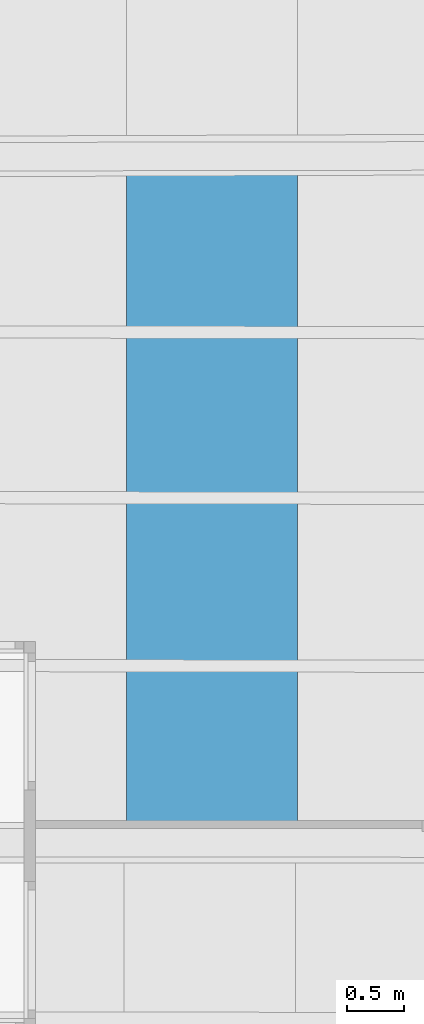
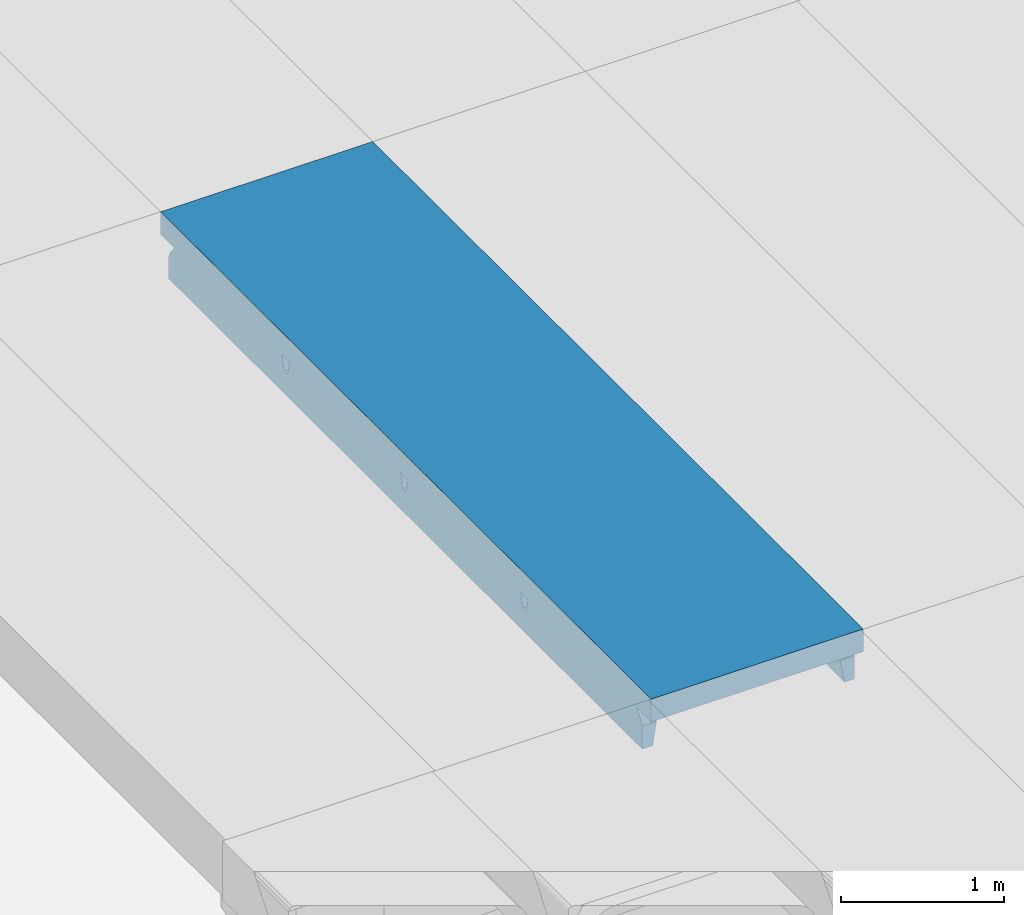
# One storey, part 48 of 301: 1 beam.
"""IFC2X3 building model written with IfcOpenShell, lengths in millimetres."""

from ifc_helpers import new_model, entity, si_unit, converted_unit, derived_unit, money_unit, direction, frame, origin_with_axes, place, context, subcontext, project, spatial, faceted_brep, material, type_object, element, save


model = new_model("IFC2X3")

# Units and contexts
model_context = context("Model", 3, precision=0.01, world=origin_with_axes(), true_north=direction((0.0, 1.0)))
body_context = subcontext(model_context, "Body", "Model", "MODEL_VIEW")
ifc_project = project(units=[si_unit("LENGTHUNIT", "METRE", prefix="MILLI"), si_unit("AREAUNIT", "SQUARE_METRE"), si_unit("VOLUMEUNIT", "CUBIC_METRE"), converted_unit("PLANEANGLEUNIT", "DEGREE", entity("IfcPlaneAngleMeasure", 0.0174532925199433), si_unit("PLANEANGLEUNIT", "RADIAN"), dimensions=[0, 0, 0, 0, 0, 0, 0]), money_unit("EUR"), converted_unit("TIMEUNIT", "Year", entity("IfcTimeMeasure", 31557600.0), si_unit("TIMEUNIT", "SECOND"), dimensions=[0, 0, 1, 0, 0, 0, 0]), si_unit("MASSUNIT", "GRAM", prefix="KILO"), si_unit("THERMODYNAMICTEMPERATUREUNIT", "DEGREE_CELSIUS"), si_unit("LUMINOUSINTENSITYUNIT", "LUMEN"), si_unit("ENERGYUNIT", "JOULE", prefix="MEGA"), derived_unit("THERMALCONDUCTANCEUNIT", [(si_unit("POWERUNIT", "WATT"), 1), (si_unit("LENGTHUNIT", "METRE"), -1), (si_unit("THERMODYNAMICTEMPERATUREUNIT", "KELVIN"), -1)]), derived_unit("SPECIFICHEATCAPACITYUNIT", [(si_unit("ENERGYUNIT", "JOULE"), 1), (si_unit("MASSUNIT", "GRAM", prefix="KILO"), -1), (si_unit("THERMODYNAMICTEMPERATUREUNIT", "KELVIN"), -1)]), derived_unit("MASSDENSITYUNIT", [(si_unit("MASSUNIT", "GRAM", prefix="KILO"), 1), (si_unit("VOLUMEUNIT", "CUBIC_METRE"), -1)])], contexts=[model_context])

# Site, building, storey
site_placement = place(None, frame((0.0, 0.0, 8650.0), z_axis=(0.0, 0.0, 1.0), x_axis=(1.0, 0.0, 0.0)))
site = spatial("IfcSite", under=ifc_project, at=site_placement, Name="43301:001:0844", CompositionType="ELEMENT")
building_placement = place(site_placement, origin_with_axes())
building = spatial("IfcBuilding", under=site, at=building_placement, Name="Kuressaare Ametikooli tuulikute mehaanikute õppekorpus", CompositionType="ELEMENT")
storey_placement = place(building_placement, origin_with_axes())
storey = spatial("IfcBuildingStorey", under=building, at=storey_placement, Name="1.korrus", CompositionType="ELEMENT", Elevation=0.0)

# Beam
ifc_material = material(Name="GENEERILINE - KONSTRUKTRIOON")
beam_type = type_object("IfcBeamType", Name="Precast Double Tee 2 1500 x 440", PredefinedType="NOTDEFINED")
beam_placement = place(storey_placement, frame((91975.87775377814, 56100.85090355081, 7100.0), z_axis=(0.0, 0.0, 1.0), x_axis=(-1.0, 0.0, 0.0)))
element("IfcBeam", 1, at=beam_placement, inside=storey, type_object=beam_type, material=ifc_material, context=body_context, shape_type="Brep", body=[
    faceted_brep([(-750.0, 168.1242676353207, -169.8235046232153), (-750.0, 7.139362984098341, -169.8235046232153), (-750.0, 7.139362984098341, 0.0), (-750.0, 6013.245527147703, 0.0), (-750.0, 6013.245527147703, -169.8234995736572), (-750.0, 5834.76947483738, -169.8234995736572), (-750.0, 5845.732023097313, -181.3563575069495), (-750.0, 5877.404501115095, -222.3718083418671), (-750.0, 5902.996491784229, -267.4324680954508), (-750.0, 5902.997014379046, -440.0001340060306), (-750.0, 99.89628851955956, -440.0001340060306), (-750.0, 99.89681111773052, -267.4324731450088), (-750.0, 125.4889666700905, -222.3718133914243), (-750.0, 157.1616487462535, -181.3563625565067), (-750.0, 1501.869714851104, -184.1935020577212), (-750.0, 1522.610662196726, -271.7709778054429), (-750.0, 1562.61071590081, -271.7709778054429), (-750.0, 1583.350701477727, -184.1936973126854), (-750.0, 1587.925320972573, -175.3978342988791), (-750.0, 1596.124178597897, -169.8234995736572), (-750.0, 1489.096283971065, -169.8234995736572), (-750.0, 1497.295074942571, -175.3977593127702), (-750.0, 2973.722924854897, -271.7709778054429), (-750.0, 3013.722978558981, -271.7709778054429), (-750.0, 3034.462964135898, -184.1936973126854), (-750.0, 3039.037583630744, -175.3978342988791), (-750.0, 3047.236441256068, -169.8234995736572), (-750.0, 2940.208546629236, -169.8234995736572), (-750.0, 2948.407337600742, -175.3977593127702), (-750.0, 2952.981977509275, -184.1935020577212), (-750.0, 4484.583034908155, -271.7709778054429), (-750.0, 4505.323020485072, -184.1936973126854), (-750.0, 4509.897639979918, -175.3978342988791), (-750.0, 4518.096497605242, -169.8234995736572), (-750.0, 4411.06860297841, -169.8234995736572), (-750.0, 4419.267393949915, -175.3977593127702), (-750.0, 4423.842033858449, -184.1935020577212), (-750.0, 4444.582981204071, -271.7709778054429), (-586.8200850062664, 168.7117951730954, -169.8235046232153), (-586.8200850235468, 7.139362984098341, -169.8235046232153), (750.0, 7.139362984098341, -169.8235046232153), (750.0, 7.139362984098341, 0.0), (584.2531439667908, 7.139362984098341, -169.8235046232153), (750.0, 6013.245527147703, 0.0), (750.0, 6013.245527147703, -169.8234995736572), (584.2531439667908, 6013.245527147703, -169.8234995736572), (-586.8200850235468, 6013.245527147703, -169.8234995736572), (-586.8200850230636, 5834.72391649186, -169.8234995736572), (-604.4404036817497, 5836.772487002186, -171.9734684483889), (-620.1516209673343, 5844.630023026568, -180.2351660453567), (-621.1429266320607, 5845.696047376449, -181.3563575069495), (-631.90952567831, 5855.102461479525, -193.5336498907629), (-638.1842783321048, 5867.926721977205, -210.1386333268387), (-640.4097012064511, 5877.373904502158, -222.3718083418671), (-648.6070026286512, 5902.968183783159, -267.4324680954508), (-680.0000000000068, 5902.977471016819, -440.0001340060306), (-680.0000000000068, 100.1483227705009, -440.0001340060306), (-648.6070035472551, 100.2618755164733, -267.4324731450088), (-640.409702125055, 125.8835453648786, -222.3718133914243), (-638.1842783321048, 135.3381839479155, -210.1386333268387), (-631.9095256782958, 148.1833673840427, -193.5336498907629), (-621.1429310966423, 157.625597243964, -181.3563625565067), (-620.1516209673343, 158.694925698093, -180.2351660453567), (-604.4404036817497, 166.604693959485, -171.9734684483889), (-623.651398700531, 1501.662672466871, -184.1935020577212), (-631.9095256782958, 1503.888229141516, -193.5336498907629), (-638.1842783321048, 1507.831064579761, -210.1386333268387), (-649.3962514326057, 1522.445806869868, -271.7709778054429), (-649.3962514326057, 1562.445860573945, -271.7709778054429), (-638.1842783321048, 1577.02321334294, -210.1386333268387), (-631.9095256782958, 1580.94531082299, -193.5336498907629), (-623.651571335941, 1583.14365937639, -184.1936973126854), (-620.1516209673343, 1585.196707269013, -180.2351660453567), (-610.9524982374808, 1587.697469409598, -175.3978342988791), (-604.4404036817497, 1592.723433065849, -171.9734684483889), (-586.8200850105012, 1595.856782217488, -169.8234995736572), (-586.8200850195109, 1488.828887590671, -169.8234995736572), (-604.4404036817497, 1492.020000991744, -171.9734684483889), (-610.9523556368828, 1497.067223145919, -175.3977593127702), (-620.1516209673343, 1499.598218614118, -180.2351660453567), (-649.3962514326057, 2973.558069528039, -271.7709778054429), (-649.3962514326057, 3013.558123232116, -271.7709778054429), (-638.1842783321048, 3028.135476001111, -210.1386333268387), (-631.9095256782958, 3032.057573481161, -193.5336498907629), (-623.651571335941, 3034.255922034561, -184.1936973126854), (-620.1516209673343, 3036.308969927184, -180.2351660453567), (-610.9524982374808, 3038.809732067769, -175.3978342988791), (-604.4404036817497, 3043.83569572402, -171.9734684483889), (-586.8200850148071, 3046.96904487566, -169.8234995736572), (-586.8200850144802, 2939.941150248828, -169.8234995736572), (-604.4404036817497, 2943.132263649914, -171.9734684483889), (-610.9523556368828, 2948.17948580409, -175.3977593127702), (-620.1516209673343, 2950.710481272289, -180.2351660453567), (-623.651398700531, 2952.774935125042, -184.1935020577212), (-631.9095256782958, 2955.000491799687, -193.5336498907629), (-638.1842783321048, 2958.943327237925, -210.1386333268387), (-631.90952567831, 4502.917629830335, -193.5336498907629), (-623.651571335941, 4505.115978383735, -184.1936973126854), (-649.3962514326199, 4484.41817958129, -271.7709778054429), (-638.1842783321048, 4498.995532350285, -210.1386333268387), (-620.1516209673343, 4507.169026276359, -180.2351660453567), (-610.9524982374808, 4509.669788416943, -175.3978342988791), (-604.4404036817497, 4514.695752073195, -171.9734684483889), (-586.8200850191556, 4517.829101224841, -169.8234995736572), (-586.820085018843, 4410.801206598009, -169.8234995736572), (-604.4404036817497, 4413.992319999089, -171.9734684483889), (-610.9523556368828, 4419.039542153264, -175.3977593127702), (-620.1516209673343, 4421.570537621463, -180.2351660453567), (-623.651398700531, 4423.634991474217, -184.1935020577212), (-638.1842783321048, 4429.803383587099, -210.1386333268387), (-649.3962514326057, 4444.418125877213, -271.7709778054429), (-631.9095256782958, 4425.860548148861, -193.5336498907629), (584.2531439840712, 172.9282318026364, -169.8235046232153), (584.253143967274, 5834.396963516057, -169.8234995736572), (584.253143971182, 4515.910110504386, -169.8234995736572), (584.2531439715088, 4408.882215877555, -169.8234995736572), (584.2531439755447, 3045.050054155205, -169.8234995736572), (584.2531439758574, 2938.022159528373, -169.8234995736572), (584.2531439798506, 1593.937791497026, -169.8234995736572), (584.2531439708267, 1486.909896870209, -169.8234995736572), (750.0, 173.5250015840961, -169.8235046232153), (750.0, 162.562382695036, -181.3563625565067), (750.0, 130.8897006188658, -222.3718133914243), (750.0, 105.2975450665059, -267.4324731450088), (750.0, 105.2970224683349, -440.0001340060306), (750.0, 5902.578228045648, -440.0001340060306), (750.0, 5902.577705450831, -267.4324680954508), (750.0, 5876.985714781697, -222.3718083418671), (750.0, 5845.313236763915, -181.3563575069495), (750.0, 5834.350688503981, -169.8234995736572), (750.0, 1585.467331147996, -175.3978342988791), (750.0, 1580.892711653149, -184.1936973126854), (750.0, 1560.15272607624, -271.7709778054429), (750.0, 1520.152672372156, -271.7709778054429), (750.0, 1499.411725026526, -184.1935020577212), (750.0, 1494.837085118, -175.3977593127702), (750.0, 1486.638294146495, -169.8234995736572), (750.0, 1593.666188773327, -169.8234995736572), (750.0, 3032.00497431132, -184.1936973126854), (750.0, 3011.264988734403, -271.7709778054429), (750.0, 2971.264935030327, -271.7709778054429), (750.0, 2950.523987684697, -184.1935020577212), (750.0, 2945.949347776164, -175.3977593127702), (750.0, 2937.750556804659, -169.8234995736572), (750.0, 3044.778451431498, -169.8234995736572), (750.0, 3036.579593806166, -175.3978342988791), (750.0, 4482.125045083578, -271.7709778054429), (750.0, 4442.124991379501, -271.7709778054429), (750.0, 4421.384044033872, -184.1935020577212), (750.0, 4416.809404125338, -175.3977593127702), (750.0, 4408.610613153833, -169.8234995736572), (750.0, 4515.638507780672, -169.8234995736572), (750.0, 4507.439650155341, -175.3978342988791), (750.0, 4502.865030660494, -184.1936973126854), (604.310838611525, 5837.891564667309, -173.5057932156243), (604.310838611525, 4510.461241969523, -173.5057932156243), (604.310838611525, 3039.601185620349, -173.5057932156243), (604.310838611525, 4414.265377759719, -173.5057932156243), (604.310838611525, 2943.405321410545, -173.5057932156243), (604.310838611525, 1588.488922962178, -173.5057932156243), (604.310838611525, 1492.293058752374, -173.5057932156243), (604.310838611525, 169.5002304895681, -173.5057932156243), (617.2693620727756, 162.0844874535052, -181.3563625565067), (621.7526411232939, 160.0032415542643, -184.072435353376), (634.3038197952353, 147.6367178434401, -200.1453415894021), (640.3274701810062, 132.6133964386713, -219.6283094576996), (640.7591234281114, 130.4963800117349, -222.3718133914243), (647.848808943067, 104.9297507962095, -267.4324731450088), (674.9999969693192, 105.0269857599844, -440.0001340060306), (674.9999969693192, 5902.599167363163, -440.0001340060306), (647.8488081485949, 5902.606225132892, -267.4324680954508), (640.7591226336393, 5877.016213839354, -222.3718083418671), (640.3274701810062, 5874.897781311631, -219.6283094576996), (634.3038197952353, 5859.854550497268, -200.1453415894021), (621.7526411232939, 5847.446420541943, -184.072435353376), (617.2693537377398, 5845.350293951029, -181.3563575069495), (621.7526411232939, 1581.165932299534, -184.072435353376), (621.8473334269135, 1581.102710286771, -184.1936973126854), (607.4339316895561, 1585.700948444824, -175.3978342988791), (640.3274701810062, 1572.680829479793, -219.6283094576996), (648.531413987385, 1560.318998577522, -271.7709778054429), (634.3038197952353, 1577.304641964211, -200.1453415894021), (648.531413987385, 1520.318944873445, -271.7709778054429), (640.3274701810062, 1507.983455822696, -219.6283094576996), (634.3038197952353, 1503.379181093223, -200.1453415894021), (621.847180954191, 1499.621723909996, -184.1935020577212), (607.4338079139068, 1495.070702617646, -175.3977593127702), (621.7526411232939, 1499.558912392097, -184.072435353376), (648.531413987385, 3011.431261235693, -271.7709778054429), (621.8473334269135, 3032.214972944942, -184.1936973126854), (634.3038197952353, 3028.416904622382, -200.1453415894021), (640.3274701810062, 3023.793092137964, -219.6283094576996), (648.531413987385, 2971.431207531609, -271.7709778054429), (640.3274701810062, 2959.095718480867, -219.6283094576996), (634.3038197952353, 2954.491443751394, -200.1453415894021), (621.8471809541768, 2950.733986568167, -184.1935020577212), (621.7526411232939, 2950.671175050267, -184.072435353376), (607.433807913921, 2946.182965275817, -175.3977593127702), (607.4339316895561, 3036.813211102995, -175.3978342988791), (621.7526411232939, 3032.278194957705, -184.072435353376), (648.531413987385, 4482.291317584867, -271.7709778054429), (648.531413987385, 4442.291263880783, -271.7709778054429), (640.3274701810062, 4429.955774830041, -219.6283094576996), (634.3038197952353, 4425.351500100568, -200.1453415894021), (621.8471809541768, 4421.594042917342, -184.1935020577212), (621.7526411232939, 4421.531231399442, -184.072435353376), (607.433807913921, 4417.043021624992, -175.3977593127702), (607.4339316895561, 4507.673267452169, -175.3978342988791), (621.7526411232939, 4503.138251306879, -184.072435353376), (621.8473334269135, 4503.075029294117, -184.1936973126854), (634.3038197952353, 4499.276960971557, -200.1453415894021), (640.3274701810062, 4494.653148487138, -219.6283094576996)], [[[0, 1, 2, 3, 4, 5, 6, 7, 8, 9, 10, 11, 12, 13], [14, 15, 16, 17, 18, 19, 20, 21], [22, 23, 24, 25, 26, 27, 28, 29], [30, 31, 32, 33, 34, 35, 36, 37]], [[38, 39, 1, 0]], [[40, 41, 2, 1, 39, 42]], [[3, 2, 41, 43]], [[4, 3, 43, 44, 45, 46]], [[47, 5, 4, 46]], [[5, 47, 48, 49, 50, 6]], [[6, 50, 51, 52, 53, 7]], [[54, 8, 7, 53]], [[55, 9, 8, 54]], [[10, 9, 55, 56]], [[56, 57, 11, 10]], [[57, 58, 12, 11]], [[13, 12, 58, 59, 60, 61]], [[0, 13, 61, 62, 63, 38]], [[64, 65, 66, 67, 15, 14]], [[16, 15, 67, 68]], [[68, 69, 70, 71, 17, 16]], [[17, 71, 72, 73, 18]], [[18, 73, 74, 75, 19]], [[20, 19, 75, 76]], [[20, 76, 77, 78, 21]], [[21, 78, 79, 64, 14]], [[22, 80, 81, 23]], [[82, 83, 84, 24, 23, 81]], [[84, 85, 86, 25, 24]], [[86, 87, 88, 26, 25]], [[26, 88, 89, 27]], [[89, 90, 91, 28, 27]], [[91, 92, 93, 29, 28]], [[94, 95, 80, 22, 29, 93]], [[96, 97, 31, 30, 98, 99]], [[100, 101, 32, 31, 97]], [[102, 103, 33, 32, 101]], [[103, 104, 34, 33]], [[105, 106, 35, 34, 104]], [[107, 108, 36, 35, 106]], [[109, 110, 37, 36, 108, 111]], [[110, 98, 30, 37]], [[112, 42, 39, 38, 76, 75, 89, 88, 104, 103, 47, 46, 45, 113, 114, 115, 116, 117, 118, 119]], [[43, 41, 40, 120, 121, 122, 123, 124, 125, 126, 127, 128, 129, 44], [130, 131, 132, 133, 134, 135, 136, 137], [138, 139, 140, 141, 142, 143, 144, 145], [146, 147, 148, 149, 150, 151, 152, 153]], [[120, 40, 42, 112]], [[129, 113, 45, 44]], [[48, 47, 103, 102]], [[48, 102, 101, 100, 49]], [[49, 100, 97, 96, 51, 50]], [[52, 51, 96, 99]], [[53, 52, 99, 98, 110, 109, 82, 81, 80, 95, 69, 68, 67, 66, 59, 58, 57, 56, 55, 54]], [[66, 65, 60, 59]], [[62, 61, 60, 65, 64, 79]], [[77, 63, 62, 79, 78]], [[77, 76, 38, 63]], [[94, 70, 69, 95]], [[71, 70, 94, 93, 92, 72]], [[73, 72, 92, 91, 90, 74]], [[89, 75, 74, 90]], [[83, 82, 109, 111]], [[83, 111, 108, 107, 85, 84]], [[85, 107, 106, 105, 87, 86]], [[88, 87, 105, 104]], [[113, 154, 155, 114]], [[151, 150, 115, 114]], [[156, 116, 115, 157]], [[116, 144, 143, 117]], [[158, 159, 118, 117]], [[119, 118, 137, 136]], [[119, 160, 161, 112]], [[120, 112, 161, 162, 121]], [[163, 164, 165, 166, 122, 121, 162]], [[123, 122, 166, 167]], [[124, 123, 167, 168]], [[168, 169, 125, 124]], [[125, 169, 170, 126]], [[126, 170, 171, 127]], [[128, 127, 171, 172, 173, 174, 175]], [[154, 113, 129, 128, 175]], [[176, 177, 131, 130, 178]], [[179, 180, 132, 131, 177, 181]], [[180, 182, 133, 132]], [[134, 133, 182, 183, 184, 185]], [[186, 135, 134, 185, 187]], [[119, 136, 135, 186, 160]], [[159, 178, 130, 137, 118]], [[188, 139, 138, 189, 190, 191]], [[192, 140, 139, 188]], [[140, 192, 193, 194, 195, 141]], [[142, 141, 195, 196, 197]], [[143, 142, 197, 158, 117]], [[198, 145, 144, 116, 156]], [[189, 138, 145, 198, 199]], [[147, 146, 200, 201]], [[201, 202, 203, 204, 148, 147]], [[148, 204, 205, 206, 149]], [[149, 206, 157, 115, 150]], [[152, 151, 114, 155, 207]], [[153, 152, 207, 208, 209]], [[146, 153, 209, 210, 211, 200]], [[174, 208, 207, 155, 154, 175]], [[156, 157, 206, 205, 199, 198]], [[178, 159, 158, 197, 196, 176]], [[163, 162, 161, 160, 186, 187]], [[184, 164, 163, 187, 185]], [[184, 183, 165, 164]], [[202, 201, 200, 211, 172, 171, 170, 169, 168, 167, 166, 165, 183, 182, 180, 179, 193, 192, 188, 191]], [[173, 172, 211, 210]], [[173, 210, 209, 208, 174]], [[177, 176, 196, 195, 194, 181]], [[193, 179, 181, 194]], [[199, 205, 204, 203, 190, 189]], [[191, 190, 203, 202]]]),
])

save(model, "model.ifc")
